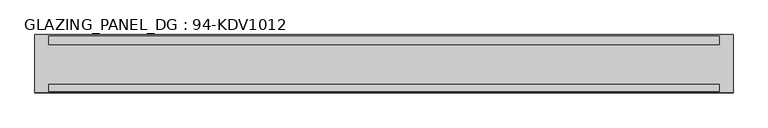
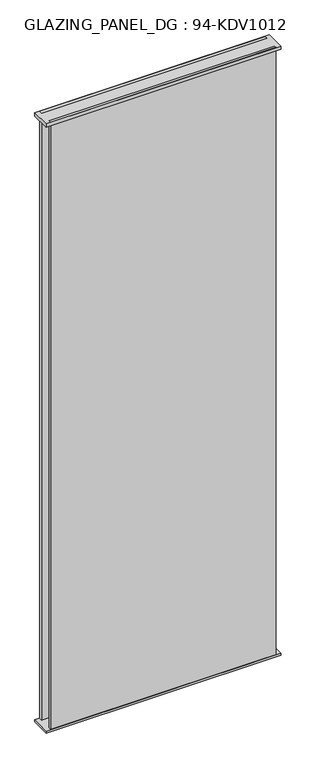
"""IFC4 building model written with IfcOpenShell, lengths in millimetres: plate geometry, GLAZING_PANEL_DG : 94-KDV1012."""

from ifc_helpers import new_model, si_unit, frame, origin, origin_with_axes, place, context, project, spatial, polyline, outline, extrude, source, transform, mapped, element, save


def glazing_panel_dg_94_kdv1012_88132442(model_context):
    return source(origin(), model_context, "Body", "SweptSolid", [
        extrude(outline(polyline([(479.6, -39.5), (-479.6, -39.5), (-479.6, -29.5), (479.6, -29.5), (479.6, -39.5)])), origin_with_axes(), (0.0, 0.0, 1.0), 2739.0),
        extrude(outline(polyline([(479.6, 27.5), (-479.6, 27.5), (-479.6, 39.5), (479.6, 39.5), (479.6, 27.5)])), origin_with_axes(), (0.0, 0.0, 1.0), 2739.0),
        extrude(outline(polyline([(499.6, 41.5), (499.6, -41.5), (-499.6, -41.5), (-499.6, 41.5), (499.6, 41.5)])), frame((0.0, 0.0, 2724.0), z_axis=(0.0, 0.0, 1.0), x_axis=(1.0, 0.0, 0.0)), (0.0, 0.0, 1.0), 15.0),
        extrude(outline(polyline([(499.6, -41.5), (-499.6, -41.5), (-499.6, 41.5), (499.6, 41.5), (499.6, -41.5)])), origin_with_axes(), (0.0, 0.0, 1.0), 9.0),
    ])


if __name__ == "__main__":
    model = new_model("IFC4")
    model_context = context("Model", 3, world=origin())
    ifc_project = project(units=[si_unit("LENGTHUNIT", "METRE", prefix="MILLI")], contexts=[model_context])
    site = spatial("IfcSite", under=ifc_project)
    building = spatial("IfcBuilding", under=site)
    placement = place(None, origin())
    glazing_panel_dg_94_kdv1012_shape = glazing_panel_dg_94_kdv1012_88132442(model_context)
    element("IfcPlate", 1, ObjectType="GLAZING_PANEL_DG : 94-KDV1012", at=placement, inside=building, context=model_context, shape_type="MappedRepresentation", body=[
        mapped(glazing_panel_dg_94_kdv1012_shape, transform((0.0, 0.0, 0.0), x_axis=(1.0, 0.0, 0.0), y_axis=(0.0, 1.0, 0.0), z_axis=(0.0, 0.0, 1.0))),
    ])
    save(model, "model.ifc")
